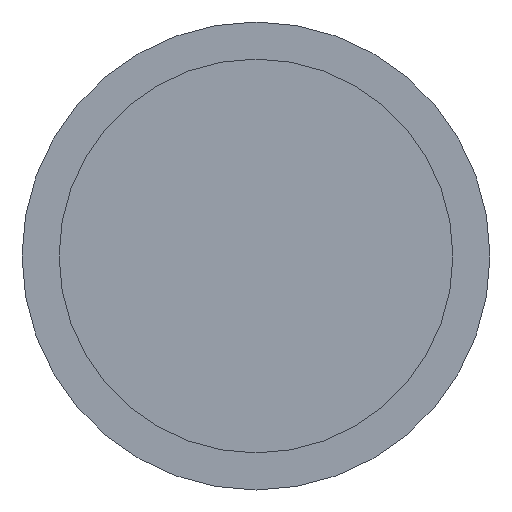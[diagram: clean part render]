
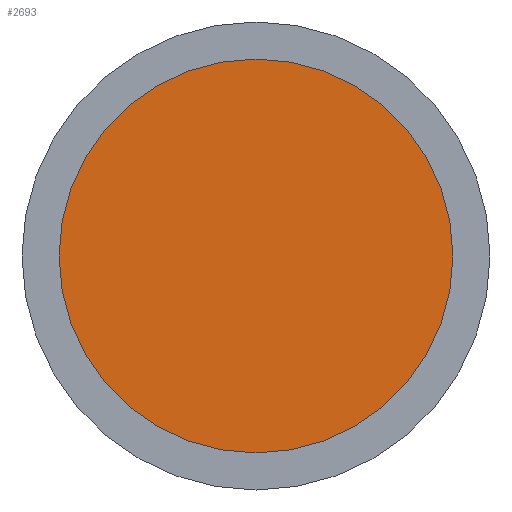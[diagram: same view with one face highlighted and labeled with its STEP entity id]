
A CAD part, left-side view. The second image highlights one B-rep face of the part: STEP entity #2693.
In plain terms, the highlighted planar face has unit normal (-1, 0, 0).
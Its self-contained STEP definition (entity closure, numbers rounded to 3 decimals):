
#184=CIRCLE($,#2984,0.673);
#355=FACE_OUTER_BOUND($,#529,.T.);
#529=EDGE_LOOP($,(#2391));
#1237=VERTEX_POINT($,#4612);
#1617=EDGE_CURVE($,#1237,#1237,#184,.T.);
#2391=ORIENTED_EDGE($,*,*,#1617,.F.);
#2528=PLANE($,#3002);
#2693=ADVANCED_FACE($,(#355),#2528,.T.);
#2984=AXIS2_PLACEMENT_3D($,#4613,#3821,#3822);
#3002=AXIS2_PLACEMENT_3D($,#4636,#3857,#3858);
#3821=DIRECTION('center_axis',(1.,0.,0.));
#3822=DIRECTION('ref_axis',(0.,1.,0.));
#3857=DIRECTION('center_axis',(-1.,0.,0.));
#3858=DIRECTION('ref_axis',(0.,0.,1.));
#4612=CARTESIAN_POINT('',(0.,0.673,0.));
#4613=CARTESIAN_POINT('Origin',(0.,0.,
0.));
#4636=CARTESIAN_POINT('Origin',(0.,0.337,0.));
